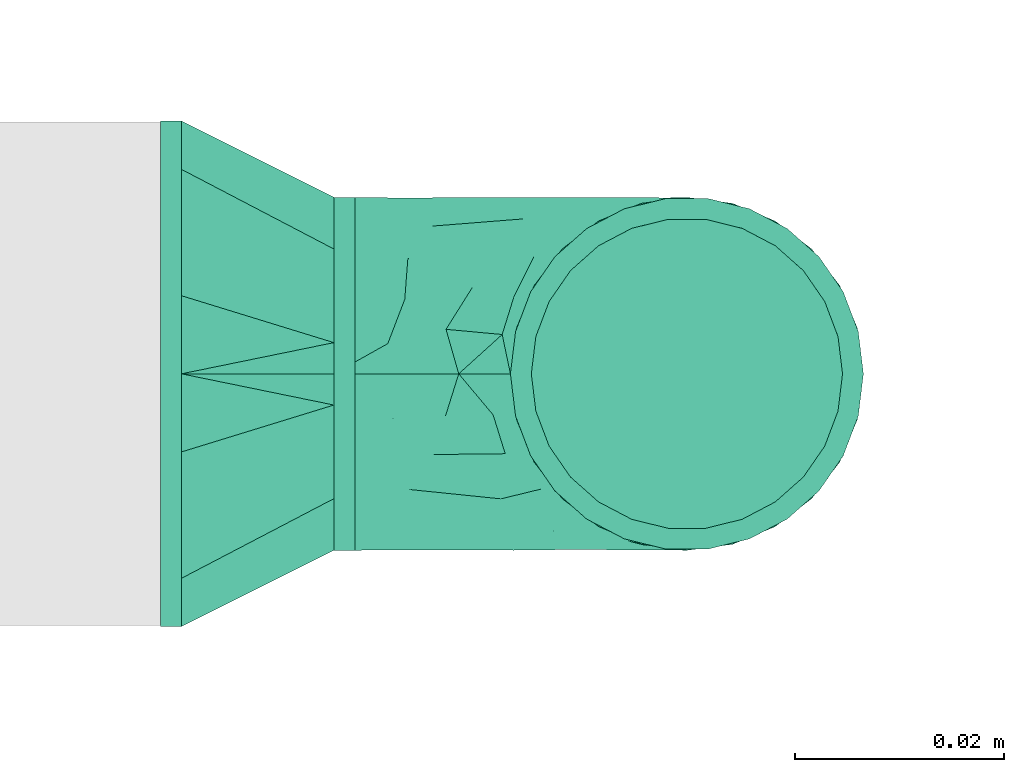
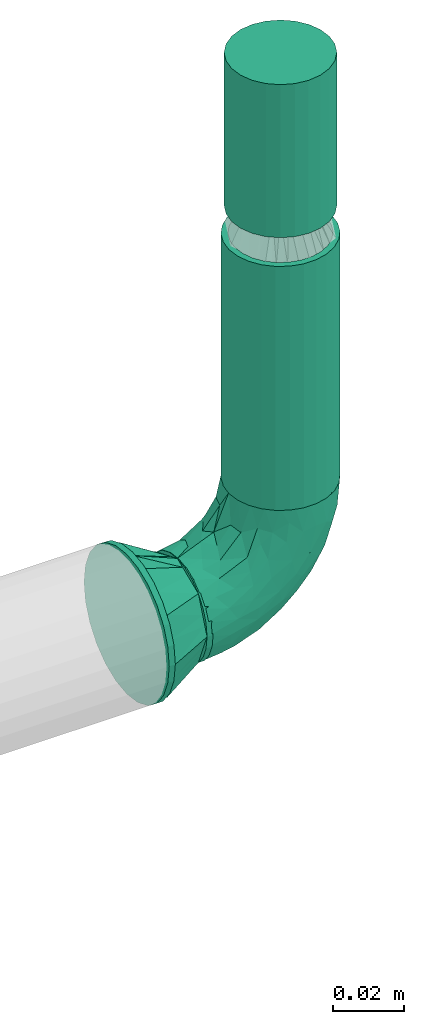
# One storey, part 12 of 14: 2 flow fittings, 1 flow segment, 1 flow terminal.
"""IFC2X3 building model written with IfcOpenShell, lengths in millimetres."""

import ifcopenshell
import ifcopenshell.guid

model = None  # the IFC model being written
_history = None  # IfcOwnerHistory: only IFC2X3 demands one
_inside = {}  # id of a spatial element -> (the spatial element, [elements in it])
_under = {}  # id of a project, library or spatial element -> (it, [spatial elements below it])
_declared = {}  # id of a project -> (the project, [libraries it declares])
_typed = {}  # id of a type object -> (the type object, [elements of that type])
_made_of = {}  # id of a material, layer set ... -> (it, [elements and type objects made of it])


def new_model(schema):
    """Start an empty IFC model of exactly this schema.

    Asked for "IFC4X3", IfcOpenShell would pick the latest addendum, in which some entities
    have other attributes; the version numbers below select the first issue.
    IFC2X3 requires an IfcOwnerHistory on every rooted entity: one is made here for all.
    """
    global model, _history
    if schema == "IFC4X3":
        model = ifcopenshell.file(schema_version=(4, 3, 0, 0))
    else:
        model = ifcopenshell.file(schema=schema)
    _inside.clear()
    _under.clear()
    _declared.clear()
    _typed.clear()
    _made_of.clear()
    _history = None
    if model.schema == "IFC2X3":
        org = make("IfcOrganization", Name="unknown")
        user = make(
            "IfcPersonAndOrganization",
            ThePerson=make("IfcPerson", FamilyName="unknown"),
            TheOrganization=org,
        )
        app = make(
            "IfcApplication",
            ApplicationDeveloper=org,
            Version="unknown",
            ApplicationFullName="unknown",
            ApplicationIdentifier="unknown",
        )
        _history = make(
            "IfcOwnerHistory",
            OwningUser=user,
            OwningApplication=app,
            ChangeAction="ADDED",
            CreationDate=0,
        )
    return model


def make(cls, **values):
    """One entity of the class cls with the attributes given. An attribute that is None is left unset."""
    return model.create_entity(
        cls, **{name: value for name, value in values.items() if value is not None}
    )


def entity(cls, *values):
    """Any entity or typed value of the class cls, its attributes in the order of the schema. None: left unset."""
    e = model.create_entity(cls)
    for i, value in enumerate(values):
        if value is not None:
            e[i] = value
    return e


def rooted(cls, **values):
    """An entity with a GlobalId (a new one), such as an element, a storey or a relation."""
    return make(cls, GlobalId=ifcopenshell.guid.new(), OwnerHistory=_history, **values)


def si_unit(unit_type, name, prefix=None):
    """IfcSIUnit, for example si_unit("LENGTHUNIT", "METRE", prefix="MILLI")."""
    return make("IfcSIUnit", UnitType=unit_type, Prefix=prefix, Name=name)


def converted_unit(unit_type, name, factor, base, dimensions=None, offset=None):
    """IfcConversionBasedUnit, such as the inch: factor (a typed value) times the base unit."""
    return make(
        "IfcConversionBasedUnit"
        if offset is None
        else "IfcConversionBasedUnitWithOffset",
        ConversionOffset=offset,
        Dimensions=None
        if dimensions is None
        else entity("IfcDimensionalExponents", *dimensions),
        UnitType=unit_type,
        Name=name,
        ConversionFactor=make(
            "IfcMeasureWithUnit", ValueComponent=factor, UnitComponent=base
        ),
    )


def derived_unit(unit_type, elements):
    """IfcDerivedUnit: a product of units, each with its exponent."""
    return make(
        "IfcDerivedUnit",
        Elements=[
            make("IfcDerivedUnitElement", Unit=unit, Exponent=power)
            for unit, power in elements
        ],
        UnitType=unit_type,
    )


def assignment(units):
    """IfcUnitAssignment: the units of a project."""
    return None if units is None else make("IfcUnitAssignment", Units=units)


def point(xyz):
    """IfcCartesianPoint."""
    return None if xyz is None else make("IfcCartesianPoint", Coordinates=xyz)


def direction(xyz):
    """IfcDirection."""
    return None if xyz is None else make("IfcDirection", DirectionRatios=xyz)


def frame(location, z_axis=None, x_axis=None):
    """IfcAxis2Placement3D, a coordinate frame: its origin and axes. An axis left out is left unset."""
    return make(
        "IfcAxis2Placement3D",
        Location=point(location),
        Axis=direction(z_axis),
        RefDirection=direction(x_axis),
    )


def frame_2d(location, x_axis=None):
    """IfcAxis2Placement2D, a coordinate frame in the plane: its origin and x axis."""
    return make(
        "IfcAxis2Placement2D", Location=point(location), RefDirection=direction(x_axis)
    )


def origin_with_axes():
    """The frame at (0, 0, 0) with the z axis (0, 0, 1) and the x axis (1, 0, 0) written out."""
    return frame((0.0, 0.0, 0.0), z_axis=(0.0, 0.0, 1.0), x_axis=(1.0, 0.0, 0.0))


def origin_2d_with_axis():
    """The frame at (0, 0) in the plane with the x axis (1, 0) written out."""
    return frame_2d((0.0, 0.0), x_axis=(1.0, 0.0))


def place(relative_to, where):
    """IfcLocalPlacement: puts the frame where relative to a parent placement (None: the world)."""
    return make(
        "IfcLocalPlacement", PlacementRelTo=relative_to, RelativePlacement=where
    )


def context(
    kind, dimensions, precision=None, world=None, true_north=None, identifier=None
):
    """IfcGeometricRepresentationContext, for example the 3D "Model" context."""
    return make(
        "IfcGeometricRepresentationContext",
        ContextIdentifier=identifier,
        ContextType=kind,
        CoordinateSpaceDimension=dimensions,
        Precision=precision,
        WorldCoordinateSystem=world,
        TrueNorth=true_north,
    )


def subcontext(parent, identifier, kind, view, scale=None):
    """IfcGeometricRepresentationSubContext, for example "Body" below "Model"."""
    return make(
        "IfcGeometricRepresentationSubContext",
        ContextIdentifier=identifier,
        ContextType=kind,
        ParentContext=parent,
        TargetScale=scale,
        TargetView=view,
    )


def project(units=None, contexts=None):
    """IfcProject with its units and contexts."""
    return rooted(
        "IfcProject",
        Name="project",
        RepresentationContexts=contexts,
        UnitsInContext=assignment(units),
    )


def spatial(cls, under=None, at=None, **own):
    """A site, building, storey or space (cls), placed at a placement, below another one or the project."""
    s = rooted(cls, ObjectPlacement=at, **own)
    if under is not None:
        _under.setdefault(under.id(), (under, []))[1].append(s)
    return s


def profile(cls, at=None, kind="AREA", **sizes):
    """A parametric profile (cls). Its sizes go by their IFC names, for example OverallWidth=200.0."""
    return make(cls, ProfileType=kind, Position=at, **sizes)


def hollow_circle(**sizes):
    """IfcCircleHollowProfileDef."""
    return profile("IfcCircleHollowProfileDef", **sizes)


def extrude(swept, where, along, depth):
    """IfcExtrudedAreaSolid: the profile swept, set in the frame where, extruded along a direction by depth."""
    return make(
        "IfcExtrudedAreaSolid",
        SweptArea=swept,
        Position=where,
        ExtrudedDirection=direction(along),
        Depth=depth,
    )


def faces_of(points, faces, orient=None, outer=None):
    """IfcFace entities. A face is a list of loops; a loop is a list of indices into points, from 0.

    orient and outer hold one flag for each loop. By default every Orientation is true, the
    first loop of a face is its IfcFaceOuterBound and the others are IfcFaceBound.
    """
    made = []
    for i, loops in enumerate(faces):
        bounds = []
        for j, loop in enumerate(loops):
            is_outer = j == 0 if outer is None else outer[i][j]
            bounds.append(
                make(
                    "IfcFaceOuterBound" if is_outer else "IfcFaceBound",
                    Bound=make("IfcPolyLoop", Polygon=[points[k] for k in loop]),
                    Orientation=True if orient is None else orient[i][j],
                )
            )
        made.append(make("IfcFace", Bounds=bounds))
    return made


def open_shell(faces, orient=None, outer=None):
    """The faces of one IfcOpenShell. surface_model builds it on its shared points."""
    return ("IfcOpenShell", faces, orient, outer)


def surface_model(cls, points, shells):
    """IfcFaceBasedSurfaceModel or IfcShellBasedSurfaceModel (cls): surfaces that need not close."""
    shared = [point(p) for p in points]
    made = [make(c, CfsFaces=faces_of(shared, fs, o, b)) for c, fs, o, b in shells]
    if cls == "IfcFaceBasedSurfaceModel":
        return make(cls, FbsmFaces=made)
    return make(cls, SbsmBoundary=made)


def shape(context_of_items, identifier, shape_type, items):
    """IfcShapeRepresentation: the items that make up one representation, for example the "Body"."""
    return make(
        "IfcShapeRepresentation",
        ContextOfItems=context_of_items,
        RepresentationIdentifier=identifier,
        RepresentationType=shape_type,
        Items=items,
    )


def source(mapping_origin, context_of_items, identifier, shape_type, items):
    """IfcRepresentationMap: a shape defined once, which mapped items show again and again."""
    return make(
        "IfcRepresentationMap",
        MappingOrigin=mapping_origin,
        MappedRepresentation=shape(context_of_items, identifier, shape_type, items),
    )


def transform(
    local_origin,
    x_axis=None,
    y_axis=None,
    z_axis=None,
    scale=None,
    scale2=None,
    scale3=None,
    uniform=True,
):
    """IfcCartesianTransformationOperator3D, or its non-uniform kind. x_axis, y_axis, z_axis: its Axis1, 2, 3."""
    if uniform:
        return make(
            "IfcCartesianTransformationOperator3D",
            Axis1=direction(x_axis),
            Axis2=direction(y_axis),
            LocalOrigin=point(local_origin),
            Scale=scale,
            Axis3=direction(z_axis),
        )
    return make(
        "IfcCartesianTransformationOperator3DnonUniform",
        Axis1=direction(x_axis),
        Axis2=direction(y_axis),
        LocalOrigin=point(local_origin),
        Scale=scale,
        Axis3=direction(z_axis),
        Scale2=scale2,
        Scale3=scale3,
    )


def mapped(mapping_source, mapping_target):
    """IfcMappedItem: shows the shape of a source again, moved by a transform."""
    return make(
        "IfcMappedItem", MappingSource=mapping_source, MappingTarget=mapping_target
    )


def made_of(thing, what):
    """Note that an element or type object is made of a material, layer set ...; save() writes the relation."""
    if what is not None:
        _made_of.setdefault(what.id(), (what, []))[1].append(thing)
    return thing


def type_object(cls, material=None, **own):
    """A type object (cls), such as IfcWallType, which elements share."""
    return made_of(rooted(cls, **own), material)


def element(
    cls,
    number,
    at=None,
    inside=None,
    cuts=None,
    type_object=None,
    material=None,
    context=None,
    identifier="Body",
    shape_type=None,
    held_by="IfcProductDefinitionShape",
    body=None,
    shapes=None,
    **own,
):
    """One element of the class cls, such as IfcWall. Its Tag is "e" and its number.

    at: its placement. inside: the storey or other place that contains it. cuts: it is an
    opening in that element (IfcRelVoidsElement). A single representation is given by context,
    identifier, shape_type and body (its items); several are given by shapes. held_by: the class
    of the entity that holds the representations. save() writes the other relations.
    """
    e = rooted(cls, Tag="e%d" % number, ObjectPlacement=at, **own)
    if body is not None:
        shapes = [shape(context, identifier, shape_type, body)]
    if shapes is not None:
        e.Representation = make(held_by, Representations=shapes)
    if inside is not None:
        _inside.setdefault(inside.id(), (inside, []))[1].append(e)
    if cuts is not None:
        rooted(
            "IfcRelVoidsElement", RelatingBuildingElement=cuts, RelatedOpeningElement=e
        )
    if type_object is not None:
        _typed.setdefault(type_object.id(), (type_object, []))[1].append(e)
    return made_of(e, material)


def aggregate(whole, parts):
    """IfcRelAggregates: a whole, such as a stair, and the parts it consists of."""
    return rooted("IfcRelAggregates", RelatingObject=whole, RelatedObjects=parts)


def save(model, path):
    """Write the relations noted so far, then the file.

    IfcRelAggregates (storeys below a building ...), IfcRelContainedInSpatialStructure (elements
    in a storey), IfcRelDefinesByType, IfcRelAssociatesMaterial and IfcRelDeclares: one each for
    every whole, place, type object, material and project.
    """
    for whole, parts in _under.values():
        aggregate(whole, parts)
    for where, things in _inside.values():
        rooted(
            "IfcRelContainedInSpatialStructure",
            RelatedElements=things,
            RelatingStructure=where,
        )
    for kind, things in _typed.values():
        rooted("IfcRelDefinesByType", RelatedObjects=things, RelatingType=kind)
    for what, things in _made_of.values():
        rooted("IfcRelAssociatesMaterial", RelatedObjects=things, RelatingMaterial=what)
    for by, libraries in _declared.values():
        rooted("IfcRelDeclares", RelatingContext=by, RelatedDefinitions=libraries)
    model.write(path)


model = new_model("IFC2X3")

# Units and contexts
model_context = context("Model", 3, precision=0.01, world=frame((0.0, 4.29681676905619e-09, 0.0)), true_north=direction((4.01073788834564e-13, 1.0)))
plan_context = context("Plan", 3, precision=0.01, world=frame((0.0, 4.29681676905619e-09, 0.0)), true_north=direction((4.01073788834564e-13, 1.0)))
body_context = subcontext(model_context, "Body", "Model", "MODEL_VIEW")
ifc_project = project(units=[converted_unit("PLANEANGLEUNIT", "DEGREE", entity("IfcPositiveLengthMeasure", 0.0174532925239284), si_unit("PLANEANGLEUNIT", "RADIAN"), dimensions=[0, 0, 0, 0, 0, 0, 0]), si_unit("AREAUNIT", "SQUARE_METRE"), si_unit("LENGTHUNIT", "METRE", prefix="MILLI"), si_unit("MASSUNIT", "GRAM", prefix="KILO"), si_unit("POWERUNIT", "WATT"), si_unit("PRESSUREUNIT", "PASCAL"), si_unit("FORCEUNIT", "NEWTON", prefix="KILO"), si_unit("ELECTRICVOLTAGEUNIT", "VOLT"), si_unit("ELECTRICCURRENTUNIT", "AMPERE"), si_unit("THERMODYNAMICTEMPERATUREUNIT", "DEGREE_CELSIUS"), si_unit("TIMEUNIT", "SECOND"), si_unit("VOLUMEUNIT", "CUBIC_METRE"), derived_unit("LINEARVELOCITYUNIT", [(si_unit("LENGTHUNIT", "METRE"), 1), (si_unit("TIMEUNIT", "SECOND"), -1)]), derived_unit("VOLUMETRICFLOWRATEUNIT", [(si_unit("VOLUMEUNIT", "CUBIC_METRE"), 1), (si_unit("TIMEUNIT", "SECOND"), -1)]), derived_unit("THERMALTRANSMITTANCEUNIT", [(si_unit("POWERUNIT", "WATT"), 1), (si_unit("THERMODYNAMICTEMPERATUREUNIT", "KELVIN"), -1), (si_unit("AREAUNIT", "SQUARE_METRE"), -1)]), derived_unit("SOUNDPRESSUREUNIT", [(si_unit("PRESSUREUNIT", "PASCAL"), 1)])], contexts=[model_context, plan_context])

# Site, building, storey
site_placement = place(None, frame((0.0, -4.29681676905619e-09, 0.0), z_axis=(0.0, 0.0, 1.0), x_axis=(1.0, 0.0, 0.0)))
site = spatial("IfcSite", under=ifc_project, at=site_placement, CompositionType="ELEMENT")
building_placement = place(site_placement, frame((0.0, 4.29681676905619e-09, 0.0), z_axis=(0.0, 0.0, 1.0), x_axis=(1.0, 0.0, 0.0)))
building = spatial("IfcBuilding", under=site, at=building_placement, Name="mc-building", CompositionType="ELEMENT")
storey_placement = place(building_placement, frame((0.0, 0.0, 204000.0), z_axis=(0.0, 0.0, 1.0), x_axis=(1.0, 0.0, 0.0)))
storey = spatial("IfcBuildingStorey", under=building, at=storey_placement, Name="Nivå D", CompositionType="ELEMENT", Elevation=204000.0)

# Flow fittings
pipe_fitting_type_1 = type_object("IfcPipeFittingType", Name="magi_pipe_fe_elbow_short_001", PredefinedType="BEND")
shared_shape_1 = source(origin_with_axes(), body_context, "Body", "SurfaceModel", [
    surface_model("IfcShellBasedSurfaceModel", [(-33.8, 4.37404, -16.32415), (-33.8, 0.0, -16.9), (-33.8, 11.9501, -11.9501), (-33.8, 8.45, -14.63583), (-33.8, 16.32415, -4.37404), (-33.8, 14.63583, -8.45), (-33.8, -14.63583, -8.45), (-33.8, -16.32415, -4.37404), (-33.8, -8.45, 14.63583), (-33.8, -11.9501, -11.9501), (-33.8, -8.45, -14.63583), (-33.8, -4.37404, -16.32415), (-33.8, -16.9, 0.0), (-33.8, -16.32415, 4.37404), (-33.8, 11.9501, 11.9501), (-33.8, 14.63583, 8.45), (-33.8, 16.32415, 4.37404), (-33.8, 4.37404, 16.32415), (-33.8, 8.45, 14.63583), (-33.8, -14.63583, 8.45), (-33.8, -11.9501, 11.9501), (-33.8, -4.37404, 16.32415), (-33.8, 0.0, 16.9), (-33.8, 16.9, 0.0), (-11.9501, 33.8, -11.9501), (0.0, 33.8, -16.9), (-4.37404, 33.8, -16.32415), (-8.45, 33.8, -14.63583), (-14.63583, 33.8, -8.45), (-16.32415, 33.8, -4.37404), (14.63583, 33.8, -8.45), (8.45, 33.8, 14.63583), (16.32415, 33.8, -4.37404), (8.45, 33.8, -14.63583), (11.9501, 33.8, -11.9501), (4.37404, 33.8, -16.32415), (16.32415, 33.8, 4.37404), (16.9, 33.8, 0.0), (-11.9501, 33.8, 11.9501), (-16.32415, 33.8, 4.37404), (-14.63583, 33.8, 8.45), (-8.45, 33.8, 14.63583), (-4.37404, 33.8, 16.32415), (11.9501, 33.8, 11.9501), (14.63583, 33.8, 8.45), (0.0, 33.8, 16.9), (4.37404, 33.8, 16.32415), (-16.9, 33.8, 0.0), (-24.79389, -13.12945, 9.48721), (-22.19287, -9.75018, 12.59315), (-24.09897, -14.97035, 0.0), (-14.93934, -10.76256, 8.5297), (-22.46095, -14.75051, 5.27077), (14.75051, 22.46094, 5.27077), (11.9251, 13.23888, 4.33236), (13.04069, 14.39795, 0.0), (7.71387, 13.68847, 11.55891), (9.75018, 22.19287, 12.59315), (4.10169, 13.0571, 14.04018), (-24.84007, -6.39063, 15.2048), (-25.81779, -2.23879, 16.61097), (-23.66549, 2.59054, 16.87119), (-26.50418, 14.06512, 11.08152), (-24.21253, 17.66365, 7.72657), (-29.58514, 15.86957, 7.00283), (-6.17382, -7.5455, 0.0), (-13.23888, -11.9251, 4.33236), (-14.39795, -13.04069, 0.0), (-17.81434, 18.87373, 11.97104), (-6.30846, 29.15138, 15.82987), (-2.31622, 25.28002, 16.85849), (-29.23923, 10.23435, 13.77053), (-1.45439, -2.85688, 7.61475), (-0.28326, 0.34872, 10.09509), (-5.74484, -4.04709, 10.4122), (-4.41137, 11.31918, 16.59407), (-8.39727, 3.10034, 15.7812), (-1.72649, 9.1306, 15.53089), (-17.39909, 24.75344, 7.64977), (-26.19233, 20.0512, 0.0), (-28.14518, 17.29657, 4.25857), (-26.05147, 6.6281, 15.96447), (-5.87354, 16.61944, 16.86968), (-12.51807, 12.51807, 16.48937), (-10.06312, 7.38516, 16.81295), (-3.01882, 3.01882, 13.81718), (-13.0571, -4.10169, 14.04018), (-16.82553, -0.15166, 16.38038), (10.76256, 14.93934, 8.5297), (13.12945, 24.79389, 9.48721), (6.39063, 24.84007, 15.2048), (2.23879, 25.81779, 16.61097), (-13.68847, -7.71387, 11.55891), (14.97035, 24.09897, 0.0), (-7.30894, 22.89991, 16.09489), (-10.67958, 26.17414, 14.008), (-12.78295, 18.26924, 15.06066), (-13.88562, 22.45231, 12.93244), (-18.04944, 15.16501, 14.04434), (-23.11658, 20.08178, 4.02986), (-21.84989, 21.84989, 0.0), (-18.55817, 25.48277, 3.93065), (-13.95142, 26.94732, 11.03289), (-18.57098, 7.23906, 16.59756), (-16.58335, 4.14122, 16.89279), (-17.96666, 11.46709, 15.63151), (-9.84453, 17.54304, 16.18938), (0.15166, 16.82553, 16.38038), (-23.27207, 11.47201, 14.23154), (3.84842, 5.86994, 10.70473), (-8.0212, -7.54413, 7.93275), (1.00345, -2.19508, 4.57414), (5.13203, 3.01004, 5.90201), (5.24161, 1.7543, 2.53265), (8.70457, 7.04947, 3.99182), (-20.0512, 26.19233, 0.0), (8.4852, 8.76699, 7.09296), (-4.55488, -6.72064, 4.90681), (2.05031, -2.05031, 0.0), (7.5455, 6.17382, 0.0), (-26.75399, 2.1369, -16.845), (-14.61995, 24.73803, -11.27736), (-28.45274, -13.45335, -9.81895), (-26.00469, 6.63555, -15.96645), (-23.06726, 20.04573, -4.26202), (-13.80647, -4.26506, -14.17873), (-14.67501, -0.21081, -16.07388), (-6.7902, -0.2828, -13.8478), (-24.53586, 11.08096, -14.13417), (-26.72048, 14.00837, -11.05776), (10.0967, 24.44989, -12.75976), (5.83237, 21.40218, -15.03047), (6.66249, 28.54238, -15.38093), (-20.38182, 15.48705, -12.74596), (-15.65186, 19.64213, -13.01327), (-12.03528, 20.66498, -14.67665), (-15.61907, 15.61906, -14.83879), (-25.56551, -15.26206, 0.0), (-24.65452, -15.12934, -5.50955), (12.53268, 21.23441, -9.15363), (13.45335, 28.45274, -9.81895), (15.12934, 24.65452, -5.50955), (-7.35442, -8.31014, -5.65563), (-15.67504, -12.54494, -5.54878), (-24.44989, -10.0967, -12.75976), (0.16522, 0.41303, -9.71728), (-5.70658, -5.33066, -8.89288), (-5.13869, -2.37198, -11.53565), (-21.23441, -12.53268, -9.15363), (0.71146, 7.93863, -14.09382), (0.21081, 14.67501, -16.07388), (3.49291, 14.42772, -14.76381), (-24.89911, -2.13088, -16.591), (-28.54238, -6.66249, -15.38093), (-18.44386, -7.71663, -13.26957), (2.13088, 24.89911, -16.591), (-28.64342, 17.44413, -2.89318), (1.70017, -1.28722, -5.09504), (-16.57067, 26.81947, -7.36596), (-17.69055, 27.4263, -3.76405), (-12.89279, -9.7522, -8.66343), (-5.96611, 5.96611, -15.95814), (-20.53709, 20.09345, -8.28985), (-2.1369, 26.75399, -16.845), (-6.89872, 24.58781, -16.02578), (-10.60739, 26.53157, -13.98044), (-21.40218, -5.83237, -15.03047), (2.93192, 5.89627, -11.55917), (6.89393, 12.61842, -11.82233), (5.58056, 5.95325, -8.79455), (-3.99512, 18.61798, -16.89635), (-9.1383, 9.86148, -16.89041), (-9.99983, 16.02119, -16.39699), (-16.68576, 9.78031, -16.34199), (-27.01915, 16.61158, -7.12979), (15.26206, 25.56551, 0.0), (-18.61798, 3.99512, -16.89635), (-19.37495, 27.82495, 0.0), (9.7522, 12.89279, -8.66343), (-12.61842, -6.89393, -11.82233), (8.31014, 7.35442, -5.65563), (-18.84705, 19.14018, -10.96545), (12.54494, 15.67504, -5.54878)], [open_shell([[[0, 1, 2]], [[3, 0, 2]], [[4, 5, 2]], [[6, 2, 1]], [[2, 7, 8]], [[9, 6, 10]], [[1, 11, 10]], [[10, 6, 1]], [[2, 6, 7]], [[12, 13, 7]], [[4, 2, 14]], [[4, 15, 16]], [[4, 14, 15]], [[17, 18, 14]], [[14, 2, 8]], [[17, 14, 8]], [[19, 20, 13]], [[20, 7, 13]], [[21, 22, 8]], [[20, 8, 7]], [[8, 22, 17]], [[4, 16, 23]], [[24, 25, 26]], [[24, 26, 27]], [[24, 28, 29]], [[25, 24, 30]], [[31, 32, 24]], [[33, 30, 34]], [[33, 35, 25]], [[25, 30, 33]], [[32, 30, 24]], [[32, 36, 37]], [[38, 24, 29]], [[39, 40, 29]], [[40, 38, 29]], [[38, 41, 42]], [[38, 31, 24]], [[31, 38, 42]], [[36, 43, 44]], [[36, 32, 43]], [[31, 45, 46]], [[32, 31, 43]], [[42, 45, 31]], [[39, 29, 47]], [[20, 48, 49]], [[13, 12, 50]], [[51, 48, 52]], [[53, 54, 55]], [[48, 20, 19]], [[13, 52, 19]], [[56, 57, 58]], [[49, 8, 20]], [[49, 59, 8]], [[22, 60, 61]], [[62, 63, 64]], [[65, 66, 67]], [[57, 43, 31]], [[62, 68, 63]], [[42, 69, 70]], [[18, 71, 14]], [[21, 60, 22]], [[72, 73, 74]], [[75, 76, 77]], [[14, 62, 15]], [[40, 39, 78]], [[79, 23, 80]], [[64, 16, 15]], [[22, 61, 17]], [[17, 81, 18]], [[82, 83, 84]], [[74, 85, 86]], [[59, 86, 87]], [[88, 89, 57]], [[90, 31, 46]], [[44, 53, 36]], [[46, 45, 91]], [[54, 53, 88]], [[44, 89, 53]], [[92, 86, 49]], [[89, 44, 43]], [[8, 59, 21]], [[53, 55, 93]], [[93, 36, 53]], [[66, 52, 67]], [[94, 82, 70]], [[95, 96, 94]], [[97, 98, 96]], [[79, 99, 100]], [[41, 38, 95]], [[101, 100, 99]], [[68, 78, 63]], [[42, 41, 69]], [[23, 16, 80]], [[95, 94, 69]], [[78, 101, 99]], [[38, 102, 95]], [[70, 45, 42]], [[97, 95, 102]], [[13, 50, 52]], [[90, 57, 31]], [[57, 90, 58]], [[81, 17, 61]], [[103, 104, 84]], [[105, 81, 103]], [[38, 40, 102]], [[106, 96, 83]], [[94, 106, 82]], [[91, 70, 107]], [[71, 62, 14]], [[62, 108, 98]], [[86, 59, 49]], [[67, 52, 50]], [[60, 59, 87]], [[92, 49, 51]], [[86, 85, 76]], [[91, 90, 46]], [[37, 36, 93]], [[107, 77, 58]], [[107, 58, 90]], [[58, 85, 109]], [[110, 74, 92]], [[72, 74, 110]], [[66, 51, 52]], [[72, 111, 112]], [[113, 114, 112]], [[56, 88, 57]], [[52, 48, 19]], [[49, 48, 51]], [[57, 89, 43]], [[53, 89, 88]], [[103, 81, 61]], [[71, 81, 108]], [[16, 64, 80]], [[63, 78, 99]], [[47, 115, 101]], [[101, 115, 100]], [[40, 78, 102]], [[68, 102, 78]], [[97, 96, 95]], [[105, 98, 108]], [[103, 84, 83]], [[107, 70, 82]], [[76, 84, 87]], [[82, 84, 75]], [[70, 91, 45]], [[90, 91, 107]], [[59, 60, 21]], [[61, 60, 87]], [[73, 85, 74]], [[109, 112, 116]], [[103, 61, 104]], [[105, 103, 83]], [[96, 105, 83]], [[81, 105, 108]], [[96, 98, 105]], [[62, 98, 68]], [[61, 87, 104]], [[87, 84, 104]], [[86, 76, 87]], [[77, 76, 85]], [[58, 77, 85]], [[75, 77, 107]], [[82, 75, 107]], [[76, 75, 84]], [[81, 71, 18]], [[62, 71, 108]], [[95, 69, 41]], [[70, 69, 94]], [[62, 64, 15]], [[80, 63, 99]], [[63, 80, 64]], [[80, 99, 79]], [[66, 65, 117]], [[110, 66, 117]], [[112, 114, 116]], [[118, 117, 65]], [[110, 92, 51]], [[112, 111, 113]], [[119, 55, 54]], [[74, 86, 92]], [[58, 109, 56]], [[116, 56, 109]], [[66, 110, 51]], [[72, 110, 117]], [[111, 72, 117]], [[73, 112, 109]], [[117, 118, 111]], [[113, 111, 118]], [[118, 119, 113]], [[114, 119, 54]], [[119, 114, 113]], [[116, 54, 88]], [[54, 116, 114]], [[116, 88, 56]], [[112, 73, 72]], [[85, 73, 109]], [[78, 39, 101]], [[47, 101, 39]], [[102, 68, 97]], [[97, 68, 98]], [[82, 106, 83]], [[94, 96, 106]], [[0, 120, 1]], [[28, 24, 121]], [[9, 122, 6]], [[3, 123, 0]], [[100, 124, 79]], [[125, 126, 127]], [[128, 2, 129]], [[130, 131, 132]], [[128, 129, 133]], [[134, 135, 136]], [[128, 3, 2]], [[67, 137, 138]], [[139, 140, 141]], [[138, 7, 6]], [[142, 65, 143]], [[144, 9, 10]], [[145, 146, 147]], [[143, 138, 148]], [[149, 150, 151]], [[152, 11, 1]], [[10, 153, 144]], [[148, 144, 154]], [[153, 10, 11]], [[35, 155, 25]], [[23, 79, 156]], [[146, 157, 142]], [[158, 159, 29]], [[143, 160, 142]], [[161, 150, 149]], [[29, 28, 158]], [[121, 162, 158]], [[33, 34, 130]], [[25, 163, 26]], [[26, 163, 164]], [[140, 34, 30]], [[24, 27, 165]], [[124, 159, 162]], [[155, 35, 132]], [[153, 152, 166]], [[123, 3, 128]], [[167, 168, 169]], [[170, 155, 150]], [[26, 164, 27]], [[132, 35, 33]], [[140, 130, 34]], [[166, 152, 126]], [[133, 134, 136]], [[2, 5, 129]], [[168, 131, 130]], [[30, 32, 141]], [[170, 171, 172]], [[173, 123, 128]], [[156, 174, 4]], [[165, 27, 164]], [[172, 164, 170]], [[134, 165, 135]], [[122, 138, 6]], [[137, 12, 7]], [[32, 37, 175]], [[168, 130, 139]], [[150, 155, 131]], [[163, 155, 170]], [[151, 168, 149]], [[150, 161, 171]], [[166, 125, 154]], [[122, 144, 148]], [[120, 152, 1]], [[176, 171, 126]], [[176, 126, 152]], [[126, 161, 127]], [[160, 143, 148]], [[137, 7, 138]], [[32, 175, 141]], [[55, 141, 175]], [[174, 129, 5]], [[128, 133, 136]], [[173, 128, 136]], [[120, 123, 176]], [[121, 158, 28]], [[159, 100, 177]], [[164, 172, 135]], [[121, 24, 165]], [[159, 47, 29]], [[79, 124, 156]], [[124, 162, 174]], [[159, 124, 100]], [[178, 169, 168]], [[127, 161, 149]], [[145, 169, 157]], [[146, 142, 160]], [[127, 149, 167]], [[127, 179, 125]], [[129, 174, 162]], [[5, 4, 174]], [[157, 65, 142]], [[67, 138, 143]], [[123, 120, 0]], [[152, 120, 176]], [[155, 163, 25]], [[164, 163, 170]], [[170, 150, 171]], [[173, 136, 172]], [[126, 171, 161]], [[173, 171, 176]], [[171, 173, 172]], [[123, 173, 176]], [[148, 179, 160]], [[127, 147, 179]], [[179, 146, 160]], [[157, 146, 145]], [[169, 178, 180]], [[168, 139, 178]], [[157, 169, 180]], [[169, 145, 167]], [[167, 145, 147]], [[149, 168, 167]], [[162, 181, 129]], [[181, 121, 134]], [[179, 147, 146]], [[167, 147, 127]], [[181, 134, 133]], [[165, 134, 121]], [[164, 135, 165]], [[172, 136, 135]], [[129, 181, 133]], [[121, 181, 162]], [[159, 158, 162]], [[47, 159, 177]], [[174, 156, 124]], [[23, 156, 4]], [[130, 132, 33]], [[155, 132, 131]], [[141, 140, 30]], [[130, 140, 139]], [[152, 153, 11]], [[144, 153, 166]], [[144, 122, 9]], [[138, 122, 148]], [[150, 131, 151]], [[157, 119, 118]], [[67, 143, 65]], [[168, 151, 131]], [[119, 157, 180]], [[157, 118, 65]], [[154, 125, 179]], [[126, 125, 166]], [[148, 154, 179]], [[166, 154, 144]], [[139, 182, 178]], [[141, 182, 139]], [[178, 182, 180]], [[182, 55, 119]], [[141, 55, 182]], [[182, 119, 180]]])]),
])
flow_fitting_1_placement = place(storey_placement, frame((609075.72773, 698608.74775, 6142.66949), z_axis=(0.0, -1.0, 0.0), x_axis=(1.0, 0.0, 0.0)))
element("IfcFlowFitting", 1, at=flow_fitting_1_placement, inside=storey, type_object=pipe_fitting_type_1, Name="magi_pipe_fe_elbow_short_001", context=body_context, shape_type="MappedRepresentation", body=[
    mapped(shared_shape_1, transform((0.0, 0.0, 0.0), scale=1.0)),
])
pipe_fitting_type_2 = type_object("IfcPipeFittingType", Name="magi_pipe_fe_reducer_centric_short_NOR", PredefinedType="TRANSITION")
shared_shape_2 = source(origin_with_axes(), body_context, "Body", "SurfaceModel", [
    surface_model("IfcShellBasedSurfaceModel", [(-2.0, 0.0, 24.2), (-2.0, 6.26342, 23.37541), (-2.0, 12.1, 20.95781), (-2.0, 17.11198, 17.11198), (-2.0, 24.2, 0.0), (-2.0, 20.95781, 12.1), (-2.0, -23.37541, 6.26342), (-2.0, -17.11198, -17.11198), (-2.0, -6.26342, 23.37541), (-2.0, -17.11198, 17.11198), (-2.0, -12.1, 20.95781), (-2.0, -20.95781, 12.1), (-2.0, -24.2, 0.0), (-2.0, 23.37541, 6.26342), (-2.0, 23.37541, -6.26342), (-2.0, 6.26342, -23.37541), (-2.0, 17.11198, -17.11198), (-2.0, 20.95781, -12.1), (-2.0, 12.1, -20.95781), (-2.0, -23.37541, -6.26342), (-2.0, -20.95781, -12.1), (-2.0, -6.26342, -23.37541), (-2.0, -12.1, -20.95781), (-2.0, 0.0, -24.2), (0.0, 24.2, 0.0), (0.0, 6.26342, -23.37541), (0.0, 12.1, -20.95781), (0.0, 23.37541, -6.26342), (0.0, 17.11198, -17.11198), (0.0, 20.95781, -12.1), (0.0, -24.2, 0.0), (0.0, -12.1, -20.95781), (0.0, -6.26342, -23.37541), (0.0, 0.0, -24.2), (0.0, -17.11198, -17.11198), (0.0, -23.37541, -6.26342), (0.0, -20.95781, -12.1), (0.0, 20.95781, 12.1), (0.0, 17.11198, 17.11198), (0.0, 12.1, 20.95781), (0.0, 6.26342, 23.37541), (0.0, 0.0, 24.2), (0.0, -23.37541, 6.26342), (0.0, -17.11198, 17.11198), (0.0, -20.95781, 12.1), (0.0, -6.26342, 23.37541), (0.0, -12.1, 20.95781), (0.0, 23.37541, 6.26342), (0.0, 7.47821, 23.01557), (0.0, 19.57821, 14.2244), (0.0, -7.47821, 23.01557), (0.0, 7.47821, -23.01557), (0.0, 19.57821, -14.2244), (0.0, -7.47821, -23.01557), (0.0, -19.57821, -14.2244), (0.0, -19.57821, 14.2244), (16.6, 4.37404, -16.32415), (16.6, 8.45, -14.63583), (16.6, 11.9501, -11.9501), (16.6, 0.0, -16.9), (16.6, 16.32415, -4.37404), (16.6, 16.32415, 4.37404), (16.6, 14.63583, -8.45), (16.6, -8.45, 14.63583), (16.6, -8.45, -14.63583), (16.6, -4.37404, -16.32415), (16.6, -11.9501, -11.9501), (16.6, -16.32415, -4.37404), (16.6, -14.63583, -8.45), (16.6, -16.32415, 4.37404), (16.6, 16.9, 0.0), (16.6, 14.63583, 8.45), (16.6, 11.9501, 11.9501), (16.6, 4.37404, 16.32415), (16.6, 8.45, 14.63583), (16.6, 0.0, 16.9), (16.6, -14.63583, 8.45), (16.6, -16.9, 0.0), (16.6, -11.9501, 11.9501), (16.6, -4.37404, 16.32415), (14.6, 11.9501, 11.9501), (14.6, 0.0, 16.9), (14.6, 4.37404, 16.32415), (14.6, 8.45, 14.63583), (14.6, 14.63583, 8.45), (14.6, 16.32415, 4.37404), (14.6, -16.32415, 4.37404), (14.6, -8.45, -14.63583), (14.6, -8.45, 14.63583), (14.6, -14.63583, 8.45), (14.6, -11.9501, 11.9501), (14.6, -4.37404, 16.32415), (14.6, -16.32415, -4.37404), (14.6, -16.9, 0.0), (14.6, 16.32415, -4.37404), (14.6, 11.9501, -11.9501), (14.6, 14.63583, -8.45), (14.6, 8.45, -14.63583), (14.6, 4.37404, -16.32415), (14.6, 0.0, -16.9), (14.6, -11.9501, -11.9501), (14.6, -14.63583, -8.45), (14.6, -4.37404, -16.32415), (14.6, 16.9, 0.0), (14.6, -13.18758, -8.96258), (14.6, 14.42505, -5.97505), (0.0, 21.8891, -7.1122), (0.0, 13.52821, -18.61999), (0.0, 16.55321, -16.42219), (14.6, -14.42505, -5.97505), (0.0, -21.8891, -7.1122), (0.0, -20.73366, -10.6683), (14.6, 5.97505, -14.42505), (0.0, 0.0, -23.01557), (14.6, -2.98753, -15.66253), (14.6, 2.98753, -15.66253), (14.6, 8.96258, -13.18758), (14.6, 15.66253, -2.98753), (14.6, -15.66253, -2.98753), (0.0, -13.52821, -18.61999), (14.6, -5.97505, -14.42505), (14.6, -8.96258, -13.18758), (14.6, 13.18758, -8.96258), (14.6, 13.18758, 8.96258), (14.6, -14.42505, 5.97505), (0.0, -21.8891, 7.1122), (0.0, -13.52821, 18.61999), (0.0, -16.55321, 16.42219), (14.6, 14.42505, 5.97505), (0.0, 21.8891, 7.1122), (0.0, 20.73366, 10.6683), (14.6, -5.97505, 14.42505), (0.0, 0.0, 23.01557), (14.6, 2.98753, 15.66253), (14.6, -2.98753, 15.66253), (14.6, -8.96258, 13.18758), (14.6, -15.66253, 2.98753), (14.6, 15.66253, 2.98753), (0.0, 13.52821, 18.61999), (14.6, 5.97505, 14.42505), (14.6, 8.96258, 13.18758), (14.6, -13.18758, 8.96258)], [open_shell([[[0, 1, 2]], [[0, 2, 3]], [[4, 3, 5]], [[6, 0, 7]], [[0, 3, 7]], [[8, 9, 10]], [[8, 0, 9]], [[9, 6, 11]], [[0, 6, 9]], [[6, 7, 12]], [[4, 5, 13]], [[3, 14, 15]], [[16, 14, 17]], [[18, 15, 14]], [[18, 14, 16]], [[15, 7, 3]], [[19, 7, 20]], [[12, 7, 19]], [[15, 21, 22]], [[22, 7, 15]], [[21, 15, 23]], [[14, 3, 4]], [[24, 25, 26]], [[27, 26, 28]], [[27, 24, 26]], [[27, 28, 29]], [[25, 30, 31]], [[25, 32, 33]], [[25, 31, 32]], [[34, 35, 36]], [[34, 31, 30]], [[34, 30, 35]], [[25, 24, 37]], [[37, 38, 25]], [[25, 38, 30]], [[39, 40, 41]], [[39, 41, 38]], [[30, 38, 41]], [[42, 43, 44]], [[45, 42, 30]], [[43, 45, 46]], [[45, 43, 42]], [[30, 41, 45]], [[24, 47, 37]], [[19, 35, 12]], [[20, 36, 19]], [[31, 7, 22]], [[20, 7, 34]], [[32, 22, 21]], [[19, 36, 35]], [[35, 30, 12]], [[32, 31, 22]], [[34, 7, 31]], [[34, 36, 20]], [[33, 32, 21]], [[21, 23, 33]], [[15, 25, 23]], [[18, 26, 15]], [[29, 16, 17]], [[18, 16, 28]], [[27, 17, 14]], [[18, 28, 26]], [[26, 25, 15]], [[24, 27, 14]], [[29, 17, 27]], [[29, 28, 16]], [[4, 24, 14]], [[23, 25, 33]], [[13, 47, 4]], [[5, 37, 13]], [[39, 3, 2]], [[5, 3, 38]], [[40, 2, 1]], [[13, 37, 47]], [[47, 24, 4]], [[40, 39, 2]], [[38, 3, 39]], [[38, 37, 5]], [[41, 40, 1]], [[1, 0, 41]], [[8, 45, 0]], [[10, 46, 8]], [[44, 9, 11]], [[10, 9, 43]], [[42, 11, 6]], [[10, 43, 46]], [[46, 45, 8]], [[30, 42, 6]], [[44, 11, 42]], [[44, 43, 9]], [[12, 30, 6]], [[0, 45, 41]], [[48, 49, 50]], [[49, 51, 30]], [[52, 51, 49]], [[30, 53, 54]], [[30, 51, 53]], [[49, 24, 52]], [[50, 30, 55]], [[30, 50, 49]], [[56, 57, 58]], [[59, 56, 58]], [[58, 60, 61]], [[60, 58, 62]], [[58, 63, 64]], [[59, 64, 65]], [[59, 58, 64]], [[66, 67, 68]], [[67, 66, 64]], [[64, 69, 67]], [[61, 60, 70]], [[61, 71, 72]], [[61, 72, 73]], [[61, 73, 63]], [[73, 72, 74]], [[63, 73, 75]], [[69, 63, 76]], [[77, 67, 69]], [[76, 63, 78]], [[63, 69, 64]], [[75, 79, 63]], [[58, 61, 63]], [[80, 81, 82]], [[80, 82, 83]], [[80, 84, 85]], [[80, 85, 81]], [[86, 81, 87]], [[88, 89, 90]], [[89, 88, 91]], [[81, 89, 91]], [[81, 86, 89]], [[86, 92, 93]], [[87, 81, 85]], [[85, 94, 95]], [[95, 94, 96]], [[95, 97, 98]], [[87, 85, 95]], [[98, 99, 95]], [[92, 100, 101]], [[100, 92, 87]], [[87, 99, 102]], [[92, 86, 87]], [[95, 99, 87]], [[94, 85, 103]], [[92, 67, 93]], [[101, 68, 92]], [[64, 100, 87]], [[101, 100, 66]], [[65, 87, 102]], [[92, 68, 67]], [[67, 77, 93]], [[65, 64, 87]], [[66, 100, 64]], [[66, 68, 101]], [[59, 65, 102]], [[102, 99, 59]], [[98, 56, 99]], [[97, 57, 98]], [[62, 95, 96]], [[97, 95, 58]], [[60, 96, 94]], [[97, 58, 57]], [[57, 56, 98]], [[70, 60, 94]], [[62, 96, 60]], [[62, 58, 95]], [[103, 70, 94]], [[99, 56, 59]], [[85, 61, 103]], [[84, 71, 85]], [[74, 80, 83]], [[84, 80, 72]], [[73, 83, 82]], [[85, 71, 61]], [[61, 70, 103]], [[73, 74, 83]], [[72, 80, 74]], [[72, 71, 84]], [[75, 73, 82]], [[82, 81, 75]], [[91, 79, 81]], [[88, 63, 91]], [[76, 90, 89]], [[88, 90, 78]], [[69, 89, 86]], [[88, 78, 63]], [[63, 79, 91]], [[77, 69, 86]], [[76, 89, 69]], [[76, 78, 90]], [[93, 77, 86]], [[81, 79, 75]], [[81, 90, 103]], [[103, 80, 81]], [[90, 100, 103]], [[99, 103, 100]], [[95, 103, 99]], [[100, 90, 93]], [[54, 100, 104]], [[105, 52, 106]], [[95, 107, 108]], [[109, 110, 111]], [[51, 107, 112]], [[113, 114, 53]], [[113, 115, 99]], [[116, 112, 107]], [[24, 117, 106]], [[51, 115, 113]], [[30, 118, 93]], [[100, 54, 119]], [[119, 120, 121]], [[30, 110, 118]], [[117, 24, 103]], [[52, 105, 122]], [[114, 120, 53]], [[114, 113, 99]], [[51, 112, 115]], [[95, 108, 52]], [[109, 118, 110]], [[54, 104, 111]], [[104, 109, 111]], [[95, 52, 122]], [[120, 119, 53]], [[121, 100, 119]], [[117, 105, 106]], [[107, 95, 116]], [[49, 80, 123]], [[124, 55, 125]], [[90, 126, 127]], [[128, 129, 130]], [[50, 126, 131]], [[132, 133, 48]], [[132, 134, 81]], [[135, 131, 126]], [[30, 136, 125]], [[50, 134, 132]], [[24, 137, 103]], [[80, 49, 138]], [[138, 139, 140]], [[24, 129, 137]], [[136, 30, 93]], [[55, 124, 141]], [[133, 139, 48]], [[133, 132, 81]], [[50, 131, 134]], [[90, 127, 55]], [[128, 137, 129]], [[49, 123, 130]], [[123, 128, 130]], [[90, 55, 141]], [[139, 138, 48]], [[140, 80, 138]], [[136, 124, 125]], [[126, 90, 135]]])]),
])
flow_fitting_2_placement = place(storey_placement, frame((609027.32773, 698608.74775, 6142.66949), z_axis=(0.0, 0.0, 1.0), x_axis=(1.0, 0.0, 0.0)))
element("IfcFlowFitting", 2, at=flow_fitting_2_placement, inside=storey, type_object=pipe_fitting_type_2, Name="magi_pipe_fe_reducer_centric_short_NOR", context=body_context, shape_type="MappedRepresentation", body=[
    mapped(shared_shape_2, transform((0.0, 0.0, 0.0), scale=1.0)),
])

# Flow segment
pipe_segment_type = type_object("IfcPipeSegmentType", Name="Stålrør normaltykke", PredefinedType="RIGIDSEGMENT")
shared_shape_3 = source(origin_with_axes(), body_context, "Body", "SweptSolid", [
    extrude(hollow_circle(Radius=16.9, WallThickness=2.0, at=origin_2d_with_axis()), frame((0.0, 0.0, 0.0), z_axis=(1.0, 0.0, 0.0), x_axis=(0.0, 1.0, 0.0)), (0.0, 0.0, 1.0), 84.5),
])
flow_segment_placement = place(storey_placement, frame((609075.72773, 698608.7481, 6260.64799999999), z_axis=(0.0, 0.999999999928, -1.1999999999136e-05), x_axis=(0.0, -1.1999999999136e-05, -0.999999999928)))
element("IfcFlowSegment", 3, at=flow_segment_placement, inside=storey, type_object=pipe_segment_type, Name="Stålrør normaltykke", context=body_context, shape_type="MappedRepresentation", body=[
    mapped(shared_shape_3, transform((0.0, 0.0, 0.0), scale=1.0)),
])

# Flow terminal
fire_suppression_terminal_type = type_object("IfcFireSuppressionTerminalType", Name="SP-15-K80-68DGR-STD-STÅENDE", PredefinedType="NOTDEFINED")
shared_shape_4 = source(origin_with_axes(), body_context, "Body", "SurfaceModel", [
    surface_model("IfcShellBasedSurfaceModel", [(4.1411, -15.45481, 53.0), (8.0, -13.85641, 53.0), (11.31371, -11.31371, 53.0), (-8.0, -13.85641, 53.0), (15.45481, -4.1411, 53.0), (16.0, 0.0, 53.0), (13.85641, -8.0, 53.0), (0.0, -16.0, 53.0), (-4.1411, -15.45481, 53.0), (-13.85641, -8.0, 53.0), (-11.31371, -11.31371, 53.0), (-15.45481, -4.1411, 53.0), (15.45481, 4.1411, 53.0), (13.85641, 8.0, 53.0), (11.31371, 11.31371, 53.0), (-4.1411, 15.45481, 53.0), (8.0, 13.85641, 53.0), (4.1411, 15.45481, 53.0), (0.0, 16.0, 53.0), (-13.85641, 8.0, 53.0), (-15.45481, 4.1411, 53.0), (-16.0, 0.0, 53.0), (-11.31371, 11.31371, 53.0), (-8.0, 13.85641, 53.0), (0.0, 16.0, 0.0), (4.1411, 15.45481, 0.0), (8.0, 13.85641, 0.0), (-4.1411, 15.45481, 0.0), (11.31371, 11.31371, 0.0), (13.85641, 8.0, 0.0), (15.45481, 4.1411, 0.0), (-15.45481, -4.1411, 0.0), (-11.31371, 11.31371, 0.0), (-8.0, 13.85641, 0.0), (-13.85641, 8.0, 0.0), (-15.45481, 4.1411, 0.0), (-16.0, 0.0, 0.0), (4.1411, -15.45481, 0.0), (16.0, 0.0, 0.0), (15.45481, -4.1411, 0.0), (13.85641, -8.0, 0.0), (11.31371, -11.31371, 0.0), (8.0, -13.85641, 0.0), (-8.0, -13.85641, 0.0), (-13.85641, -8.0, 0.0), (-11.31371, -11.31371, 0.0), (0.0, -16.0, 0.0), (-4.1411, -15.45481, 0.0)], [open_shell([[[0, 1, 2]], [[3, 0, 2]], [[4, 5, 2]], [[4, 2, 6]], [[3, 2, 5]], [[7, 3, 8]], [[7, 0, 3]], [[3, 9, 10]], [[9, 3, 11]], [[5, 11, 3]], [[5, 12, 11]], [[12, 13, 14]], [[15, 12, 14]], [[16, 17, 18]], [[14, 16, 15]], [[18, 15, 16]], [[11, 19, 20]], [[21, 11, 20]], [[22, 15, 23]], [[15, 22, 19]], [[19, 11, 15]], [[11, 12, 15]], [[24, 25, 26]], [[27, 24, 26]], [[28, 29, 30]], [[27, 26, 28]], [[27, 28, 31]], [[27, 32, 33]], [[32, 27, 34]], [[34, 31, 35]], [[31, 34, 27]], [[35, 31, 36]], [[28, 30, 31]], [[37, 38, 39]], [[37, 39, 40]], [[41, 42, 37]], [[41, 37, 40]], [[38, 37, 43]], [[44, 43, 45]], [[43, 44, 31]], [[43, 46, 47]], [[43, 31, 38]], [[37, 46, 43]], [[38, 31, 30]], [[11, 31, 44]], [[45, 9, 44]], [[3, 43, 47]], [[45, 43, 10]], [[8, 47, 46]], [[31, 21, 36]], [[31, 11, 21]], [[44, 9, 11]], [[45, 10, 9]], [[3, 10, 43]], [[47, 8, 3]], [[46, 7, 8]], [[0, 37, 42]], [[41, 1, 42]], [[6, 40, 39]], [[41, 40, 2]], [[4, 39, 38]], [[37, 0, 7]], [[42, 1, 0]], [[41, 2, 1]], [[40, 6, 2]], [[4, 6, 39]], [[38, 5, 4]], [[37, 7, 46]], [[12, 38, 30]], [[13, 30, 29]], [[16, 26, 25]], [[17, 25, 24]], [[30, 13, 12]], [[12, 5, 38]], [[28, 14, 13]], [[28, 26, 14]], [[14, 26, 16]], [[25, 17, 16]], [[28, 13, 29]], [[24, 18, 17]], [[15, 27, 33]], [[32, 23, 33]], [[19, 34, 35]], [[32, 34, 22]], [[20, 35, 36]], [[27, 15, 18]], [[33, 23, 15]], [[32, 22, 23]], [[34, 19, 22]], [[20, 19, 35]], [[36, 21, 20]], [[27, 18, 24]]])]),
])
flow_terminal_placement = place(storey_placement, frame((609075.72773, 698608.7481, 6270.0), z_axis=(0.0, 0.0, 1.0), x_axis=(1.0, 0.0, 0.0)))
element("IfcFlowTerminal", 4, at=flow_terminal_placement, inside=storey, type_object=fire_suppression_terminal_type, Name="SP-15-K80-68DGR-STD-STÅENDE", context=body_context, shape_type="MappedRepresentation", body=[
    mapped(shared_shape_4, transform((0.0, 0.0, 0.0), scale=1.0)),
])

save(model, "model.ifc")
